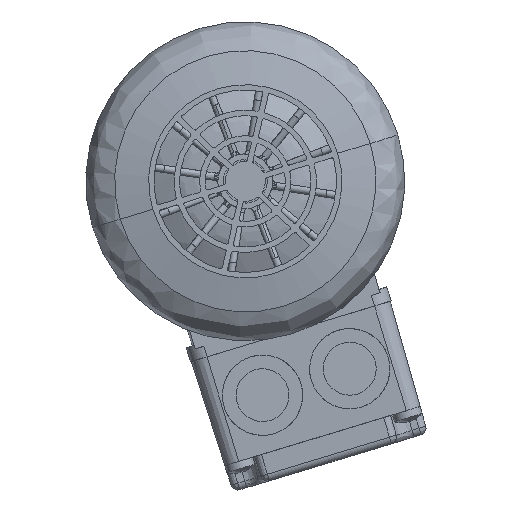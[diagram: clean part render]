
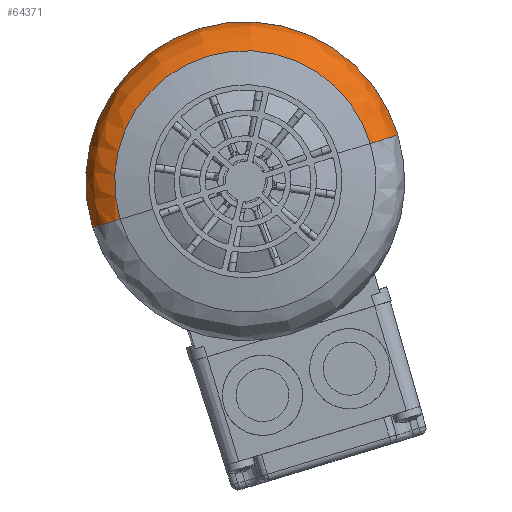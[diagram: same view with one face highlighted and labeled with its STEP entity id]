
A CAD part, left-side view. The second image highlights one B-rep face of the part: STEP entity #64371.
In plain terms, the highlighted free-form (B-spline) face has degree [3, 3] with [4, 4] control points.
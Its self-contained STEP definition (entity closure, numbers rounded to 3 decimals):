
#3410 = DIRECTION ( 'NONE',  ( -1., 0., 0. ) ) ;
#4756 = CARTESIAN_POINT ( 'NONE',  ( -43.75, 0., -136.663 ) ) ;
#8602 = EDGE_LOOP ( 'NONE', ( #69022, #41274, #84165, #65090 ) ) ;
#10858 = CARTESIAN_POINT ( 'NONE',  ( 0., 0., -131.736 ) ) ;
#11477 = CARTESIAN_POINT ( 'NONE',  ( 43.75, -87.5, -136.663 ) ) ;
#16859 = CARTESIAN_POINT ( 'NONE',  ( 43.75, 0., -131.736 ) ) ;
#17523 = DIRECTION ( 'NONE',  ( 1., 0., 0. ) ) ;
#18108 = CARTESIAN_POINT ( 'NONE',  ( -40.649, 0., -140.493 ) ) ;
#20125 = CARTESIAN_POINT ( 'NONE',  ( -35.829, 0., -141.517 ) ) ;
#24054 = CARTESIAN_POINT ( 'NONE',  ( 0., 0., -141.517 ) ) ;
#24744 = CARTESIAN_POINT ( 'NONE',  ( 40.649, -81.298, -140.493 ) ) ;
#26810 = DIRECTION ( 'NONE',  ( 0., 1., 0. ) ) ;
#30809 = DIRECTION ( 'NONE',  ( 1., 0., 0. ) ) ;
#31152 = CIRCLE ( 'NONE', #42617, 35.829 ) ;
#31496 = CARTESIAN_POINT ( 'NONE',  ( -35.829, 0., -141.517 ) ) ;
#37912 = CARTESIAN_POINT ( 'NONE',  ( -43.75, -87.5, -131.736 ) ) ;
#38207 = CARTESIAN_POINT ( 'NONE',  ( 35.829, -71.658, -141.517 ) ) ;
#40635 = EDGE_CURVE ( 'NONE', #64679, #51160, #70246, .T. ) ;
#41274 = ORIENTED_EDGE ( 'NONE', *, *, #57880, .T. ) ;
#42617 = AXIS2_PLACEMENT_3D ( 'NONE', #24054, #70574, #30809 ) ;
#43200 = DIRECTION ( 'NONE',  ( 0., -1., 0. ) ) ;
#44538 = CARTESIAN_POINT ( 'NONE',  ( 43.75, 0., -131.736 ) ) ;
#45374 = CARTESIAN_POINT ( 'NONE',  ( 35.829, 0., -141.517 ) ) ;
#49746 = FACE_OUTER_BOUND ( 'NONE', #8602, .T. ) ;
#51160 = VERTEX_POINT ( 'NONE', #45374 ) ;
#51214 = CARTESIAN_POINT ( 'NONE',  ( -43.75, -87.5, -136.663 ) ) ;
#52092 = VERTEX_POINT ( 'NONE', #20125 ) ;
#52169 = CIRCLE ( 'NONE', #74438, 43.75 ) ;
#54726 = VERTEX_POINT ( 'NONE', #77344 ) ;
#55123 = EDGE_CURVE ( 'NONE', #52092, #51160, #31152, .T. ) ;
#57130 = AXIS2_PLACEMENT_3D ( 'NONE', #66688, #26810, #73362 ) ;
#57289 = DIRECTION ( 'NONE',  ( 0., 0., 1. ) ) ;
#57830 = AXIS2_PLACEMENT_3D ( 'NONE', #83054, #43200, #3410 ) ;
#57880 = EDGE_CURVE ( 'NONE', #54726, #52092, #83104, .T. ) ;
#57893 = CARTESIAN_POINT ( 'NONE',  ( 43.75, 0., -136.663 ) ) ;
#64371 = ADVANCED_FACE ( 'NONE', ( #49746 ), #69718, .T. ) ;
#64602 = CARTESIAN_POINT ( 'NONE',  ( -40.649, -81.298, -140.493 ) ) ;
#64679 = VERTEX_POINT ( 'NONE', #16859 ) ;
#65090 = ORIENTED_EDGE ( 'NONE', *, *, #40635, .F. ) ;
#66688 = CARTESIAN_POINT ( 'NONE',  ( 33.75, 0., -131.736 ) ) ;
#68465 = EDGE_CURVE ( 'NONE', #54726, #64679, #52169, .T. ) ;
#69022 = ORIENTED_EDGE ( 'NONE', *, *, #68465, .F. ) ;
#69718 =( BOUNDED_SURFACE ( )  B_SPLINE_SURFACE ( 3, 3, ( 
 ( #84099, #37912, #84381, #44538 ),
 ( #4756, #51214, #11477, #57893 ),
 ( #18108, #64602, #24744, #71261 ),
 ( #31496, #77969, #38207, #84664 ) ),
 .UNSPECIFIED., .F., .F., .F. ) 
 B_SPLINE_SURFACE_WITH_KNOTS ( ( 4, 4 ),
 ( 4, 4 ),
 ( 0., 1. ),
 ( 0., 1. ),
 .UNSPECIFIED. ) 
 GEOMETRIC_REPRESENTATION_ITEM ( )  RATIONAL_B_SPLINE_SURFACE ( (
 ( 1., 0.333, 0.333, 1.),
 ( 0.851, 0.284, 0.284, 0.851),
 ( 0.851, 0.284, 0.284, 0.851),
 ( 1., 0.333, 0.333, 1.) ) ) 
 REPRESENTATION_ITEM ( '' )  SURFACE ( )  );
#70246 = CIRCLE ( 'NONE', #57130, 10. ) ;
#70574 = DIRECTION ( 'NONE',  ( 0., 0., 1. ) ) ;
#71261 = CARTESIAN_POINT ( 'NONE',  ( 40.649, 0., -140.493 ) ) ;
#73362 = DIRECTION ( 'NONE',  ( 1., 0., 0. ) ) ;
#74438 = AXIS2_PLACEMENT_3D ( 'NONE', #10858, #57289, #17523 ) ;
#77344 = CARTESIAN_POINT ( 'NONE',  ( -43.75, 0., -131.736 ) ) ;
#77969 = CARTESIAN_POINT ( 'NONE',  ( -35.829, -71.658, -141.517 ) ) ;
#83054 = CARTESIAN_POINT ( 'NONE',  ( -33.75, 0., -131.736 ) ) ;
#83104 = CIRCLE ( 'NONE', #57830, 10. ) ;
#84099 = CARTESIAN_POINT ( 'NONE',  ( -43.75, 0., -131.736 ) ) ;
#84165 = ORIENTED_EDGE ( 'NONE', *, *, #55123, .T. ) ;
#84381 = CARTESIAN_POINT ( 'NONE',  ( 43.75, -87.5, -131.736 ) ) ;
#84664 = CARTESIAN_POINT ( 'NONE',  ( 35.829, 0., -141.517 ) ) ;
